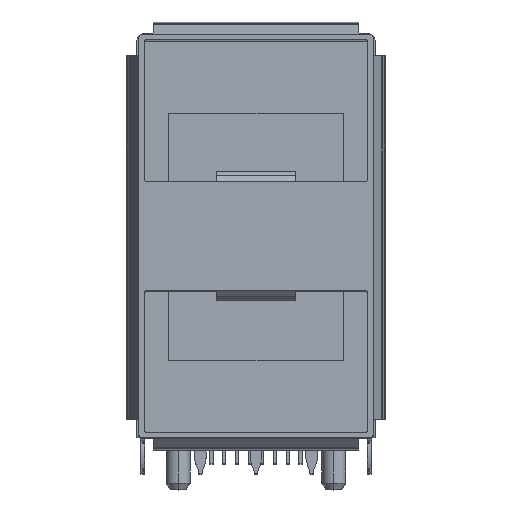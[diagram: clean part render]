
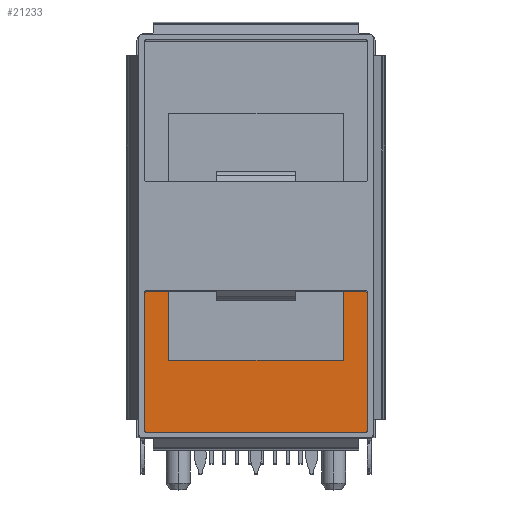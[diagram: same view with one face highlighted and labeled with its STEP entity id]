
A CAD part, top view. The second image highlights one B-rep face of the part: STEP entity #21233.
In plain terms, the highlighted planar face has unit normal (0, 0, 1).
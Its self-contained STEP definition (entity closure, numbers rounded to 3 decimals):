
#259 = VERTEX_POINT ( 'NONE', #25248 ) ;
#689 = CARTESIAN_POINT ( 'NONE',  ( -5.5, 4.85, -48.55 ) ) ;
#724 = LINE ( 'NONE', #30058, #26057 ) ;
#963 = DIRECTION ( 'NONE',  ( 0., 0., -1. ) ) ;
#1078 = CARTESIAN_POINT ( 'NONE',  ( -6.9, 9.1, -48.55 ) ) ;
#1467 = EDGE_CURVE ( 'NONE', #3819, #9704, #19142, .T. ) ;
#1710 = CARTESIAN_POINT ( 'NONE',  ( 5.5, 4.85, -48.55 ) ) ;
#1870 = VERTEX_POINT ( 'NONE', #2057 ) ;
#2057 = CARTESIAN_POINT ( 'NONE',  ( -6.9, 9.2, -48.55 ) ) ;
#2454 = VECTOR ( 'NONE', #22357, 1000. ) ;
#2766 = VECTOR ( 'NONE', #20887, 1000. ) ;
#2846 = ORIENTED_EDGE ( 'NONE', *, *, #17348, .F. ) ;
#3553 = FACE_OUTER_BOUND ( 'NONE', #20139, .T. ) ;
#3772 = VERTEX_POINT ( 'NONE', #11670 ) ;
#3781 = VECTOR ( 'NONE', #18070, 1000. ) ;
#3819 = VERTEX_POINT ( 'NONE', #7743 ) ;
#4097 = EDGE_CURVE ( 'NONE', #9704, #259, #29919, .T. ) ;
#4517 = LINE ( 'NONE', #16490, #3781 ) ;
#4755 = ORIENTED_EDGE ( 'NONE', *, *, #29935, .F. ) ;
#4942 = VERTEX_POINT ( 'NONE', #15034 ) ;
#6609 = CIRCLE ( 'NONE', #9512, 0.1 ) ;
#6860 = CARTESIAN_POINT ( 'NONE',  ( 6.9, 0.25, -48.55 ) ) ;
#7008 = CARTESIAN_POINT ( 'NONE',  ( -7., 9.1, -48.55 ) ) ;
#7743 = CARTESIAN_POINT ( 'NONE',  ( 7., 0.35, -48.55 ) ) ;
#7981 = EDGE_CURVE ( 'NONE', #27936, #1870, #8251, .T. ) ;
#8111 = EDGE_CURVE ( 'NONE', #3772, #27841, #4517, .T. ) ;
#8251 = CIRCLE ( 'NONE', #26490, 0.1 ) ;
#8719 = CARTESIAN_POINT ( 'NONE',  ( 6.9, 9.2, -48.55 ) ) ;
#9512 = AXIS2_PLACEMENT_3D ( 'NONE', #22006, #21896, #21890 ) ;
#9704 = VERTEX_POINT ( 'NONE', #6860 ) ;
#10536 = ORIENTED_EDGE ( 'NONE', *, *, #7981, .F. ) ;
#10681 = DIRECTION ( 'NONE',  ( -1., 0., 0. ) ) ;
#10949 = AXIS2_PLACEMENT_3D ( 'NONE', #12963, #14775, #12735 ) ;
#10970 = LINE ( 'NONE', #19975, #22209 ) ;
#11222 = DIRECTION ( 'NONE',  ( 0., -1., 0. ) ) ;
#11414 = ORIENTED_EDGE ( 'NONE', *, *, #1467, .F. ) ;
#11663 = ORIENTED_EDGE ( 'NONE', *, *, #26544, .F. ) ;
#11670 = CARTESIAN_POINT ( 'NONE',  ( 5.5, 9.2, -48.55 ) ) ;
#12485 = CARTESIAN_POINT ( 'NONE',  ( 7., 9.1, -48.55 ) ) ;
#12598 = ORIENTED_EDGE ( 'NONE', *, *, #19772, .F. ) ;
#12735 = DIRECTION ( 'NONE',  ( -1., 0., 0. ) ) ;
#12882 = DIRECTION ( 'NONE',  ( 0., -1., 0. ) ) ;
#12927 = ORIENTED_EDGE ( 'NONE', *, *, #29952, .F. ) ;
#12959 = ORIENTED_EDGE ( 'NONE', *, *, #8111, .F. ) ;
#12963 = CARTESIAN_POINT ( 'NONE',  ( 6.9, 0.35, -48.55 ) ) ;
#13028 = ORIENTED_EDGE ( 'NONE', *, *, #24758, .F. ) ;
#13284 = AXIS2_PLACEMENT_3D ( 'NONE', #15994, #15153, #15122 ) ;
#14775 = DIRECTION ( 'NONE',  ( 0., 0., -1. ) ) ;
#14881 = ORIENTED_EDGE ( 'NONE', *, *, #21835, .F. ) ;
#15034 = CARTESIAN_POINT ( 'NONE',  ( -5.5, 9.2, -48.55 ) ) ;
#15122 = DIRECTION ( 'NONE',  ( -1., 0., 0. ) ) ;
#15153 = DIRECTION ( 'NONE',  ( 0., 0., -1. ) ) ;
#15475 = PLANE ( 'NONE',  #13284 ) ;
#15887 = ORIENTED_EDGE ( 'NONE', *, *, #4097, .F. ) ;
#15994 = CARTESIAN_POINT ( 'NONE',  ( -7.25, 25.2, -48.55 ) ) ;
#16002 = LINE ( 'NONE', #23980, #2454 ) ;
#16078 = VERTEX_POINT ( 'NONE', #22570 ) ;
#16490 = CARTESIAN_POINT ( 'NONE',  ( 5.5, 9.2, -48.55 ) ) ;
#17348 = EDGE_CURVE ( 'NONE', #16078, #27936, #16002, .T. ) ;
#17966 = CIRCLE ( 'NONE', #25245, 0.1 ) ;
#18070 = DIRECTION ( 'NONE',  ( 1., 0., 0. ) ) ;
#18715 = ORIENTED_EDGE ( 'NONE', *, *, #19241, .F. ) ;
#18874 = DIRECTION ( 'NONE',  ( -1., 0., 0. ) ) ;
#18913 = DIRECTION ( 'NONE',  ( 0., 0., -1. ) ) ;
#19114 = CARTESIAN_POINT ( 'NONE',  ( 6.9, 9.1, -48.55 ) ) ;
#19142 = CIRCLE ( 'NONE', #10949, 0.1 ) ;
#19235 = DIRECTION ( 'NONE',  ( 1., 0., 0. ) ) ;
#19241 = EDGE_CURVE ( 'NONE', #259, #16078, #6609, .T. ) ;
#19772 = EDGE_CURVE ( 'NONE', #24542, #3819, #26649, .T. ) ;
#19975 = CARTESIAN_POINT ( 'NONE',  ( -5.5, 9.2, -48.55 ) ) ;
#20139 = EDGE_LOOP ( 'NONE', ( #12598, #13028, #12959, #12927, #11663, #4755, #14881, #10536, #2846, #18715, #15887, #11414 ) ) ;
#20469 = VECTOR ( 'NONE', #12882, 1000. ) ;
#20887 = DIRECTION ( 'NONE',  ( 0., 1., 0. ) ) ;
#21233 = ADVANCED_FACE ( 'NONE', ( #3553 ), #15475, .F. ) ;
#21835 = EDGE_CURVE ( 'NONE', #1870, #4942, #10970, .T. ) ;
#21856 = LINE ( 'NONE', #1710, #2766 ) ;
#21890 = DIRECTION ( 'NONE',  ( -1., 0., 0. ) ) ;
#21896 = DIRECTION ( 'NONE',  ( 0., 0., -1. ) ) ;
#22006 = CARTESIAN_POINT ( 'NONE',  ( -6.9, 0.35, -48.55 ) ) ;
#22209 = VECTOR ( 'NONE', #19235, 1000. ) ;
#22357 = DIRECTION ( 'NONE',  ( 0., 1., 0. ) ) ;
#22570 = CARTESIAN_POINT ( 'NONE',  ( -7., 0.35, -48.55 ) ) ;
#23980 = CARTESIAN_POINT ( 'NONE',  ( -7., 0.35, -48.55 ) ) ;
#24042 = VERTEX_POINT ( 'NONE', #689 ) ;
#24542 = VERTEX_POINT ( 'NONE', #27177 ) ;
#24758 = EDGE_CURVE ( 'NONE', #27841, #24542, #17966, .T. ) ;
#24796 = CARTESIAN_POINT ( 'NONE',  ( 5.5, 4.85, -48.55 ) ) ;
#25245 = AXIS2_PLACEMENT_3D ( 'NONE', #19114, #18913, #18874 ) ;
#25248 = CARTESIAN_POINT ( 'NONE',  ( -6.9, 0.25, -48.55 ) ) ;
#26057 = VECTOR ( 'NONE', #30024, 1000. ) ;
#26490 = AXIS2_PLACEMENT_3D ( 'NONE', #1078, #963, #10681 ) ;
#26544 = EDGE_CURVE ( 'NONE', #24042, #30767, #724, .T. ) ;
#26649 = LINE ( 'NONE', #12485, #20469 ) ;
#27177 = CARTESIAN_POINT ( 'NONE',  ( 7., 9.1, -48.55 ) ) ;
#27829 = CARTESIAN_POINT ( 'NONE',  ( -5.5, 4.85, -48.55 ) ) ;
#27841 = VERTEX_POINT ( 'NONE', #8719 ) ;
#27936 = VERTEX_POINT ( 'NONE', #7008 ) ;
#28053 = VECTOR ( 'NONE', #11222, 1000. ) ;
#28770 = LINE ( 'NONE', #27829, #28053 ) ;
#29053 = DIRECTION ( 'NONE',  ( -1., 0., 0. ) ) ;
#29264 = CARTESIAN_POINT ( 'NONE',  ( 6.9, 0.25, -48.55 ) ) ;
#29608 = VECTOR ( 'NONE', #29053, 1000. ) ;
#29919 = LINE ( 'NONE', #29264, #29608 ) ;
#29935 = EDGE_CURVE ( 'NONE', #4942, #24042, #28770, .T. ) ;
#29952 = EDGE_CURVE ( 'NONE', #30767, #3772, #21856, .T. ) ;
#30024 = DIRECTION ( 'NONE',  ( 1., 0., 0. ) ) ;
#30058 = CARTESIAN_POINT ( 'NONE',  ( -5.5, 4.85, -48.55 ) ) ;
#30767 = VERTEX_POINT ( 'NONE', #24796 ) ;
